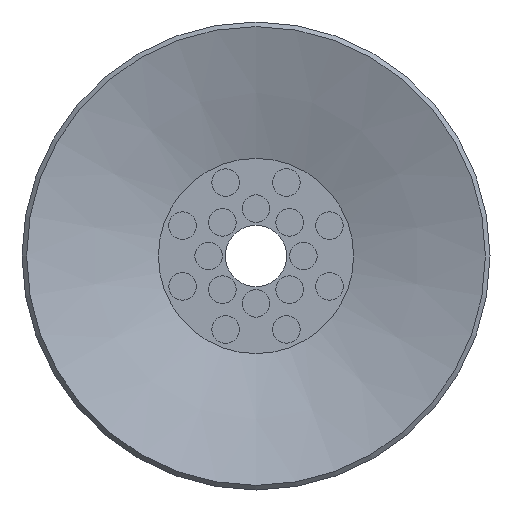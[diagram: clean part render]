
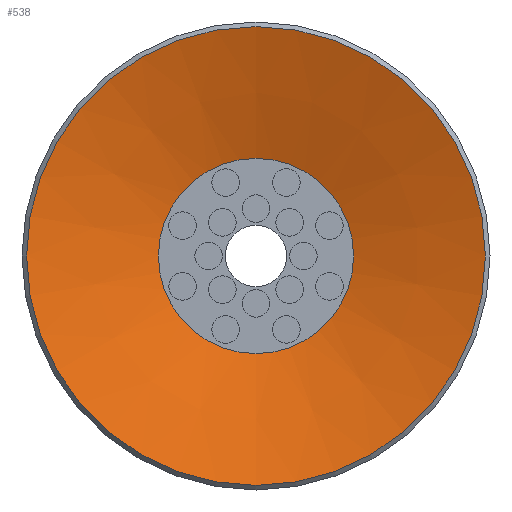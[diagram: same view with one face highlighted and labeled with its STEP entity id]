
A CAD part, front view. The second image highlights one B-rep face of the part: STEP entity #538.
In plain terms, the highlighted conical face has half-angle 72 degrees and reference radius 7.5 mm.
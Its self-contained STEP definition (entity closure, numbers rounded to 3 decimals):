
#538=ADVANCED_FACE('',(#801,#802),#803,.F.);
#801=FACE_BOUND('',#1173,.T.);
#802=FACE_OUTER_BOUND('',#1174,.T.);
#803=CONICAL_SURFACE('',#1175,7.5,1.257);
#1173=EDGE_LOOP('',(#1860));
#1174=EDGE_LOOP('',(#1861));
#1175=AXIS2_PLACEMENT_3D('',#1862,#1863,#1864);
#1860=ORIENTED_EDGE('',*,*,#2309,.T.);
#1861=ORIENTED_EDGE('',*,*,#2310,.F.);
#1862=CARTESIAN_POINT('',(0.0,0.,0.));
#1863=DIRECTION('',(0.0,0.,-1.0));
#1864=DIRECTION('',(0.0,1.0,0.));
#2309=EDGE_CURVE('',#2617,#2617,#2618,.T.);
#2310=EDGE_CURVE('',#2619,#2619,#2620,.T.);
#2617=VERTEX_POINT('',#3291);
#2618=CIRCLE('',#3292,3.191);
#2619=VERTEX_POINT('',#3293);
#2620=CIRCLE('',#3294,7.5);
#3291=CARTESIAN_POINT('',(0.0,-3.191,1.4));
#3292=AXIS2_PLACEMENT_3D('',#3668,#3669,#3670);
#3293=CARTESIAN_POINT('',(0.0,-7.5,0.));
#3294=AXIS2_PLACEMENT_3D('',#3671,#3672,#3673);
#3668=CARTESIAN_POINT('',(0.0,0.,1.4));
#3669=DIRECTION('',(0.0,0.,1.0));
#3670=DIRECTION('',(0.0,-1.0,0.));
#3671=CARTESIAN_POINT('',(0.0,0.,0.));
#3672=DIRECTION('',(0.0,0.,1.0));
#3673=DIRECTION('',(0.0,-1.0,0.));
